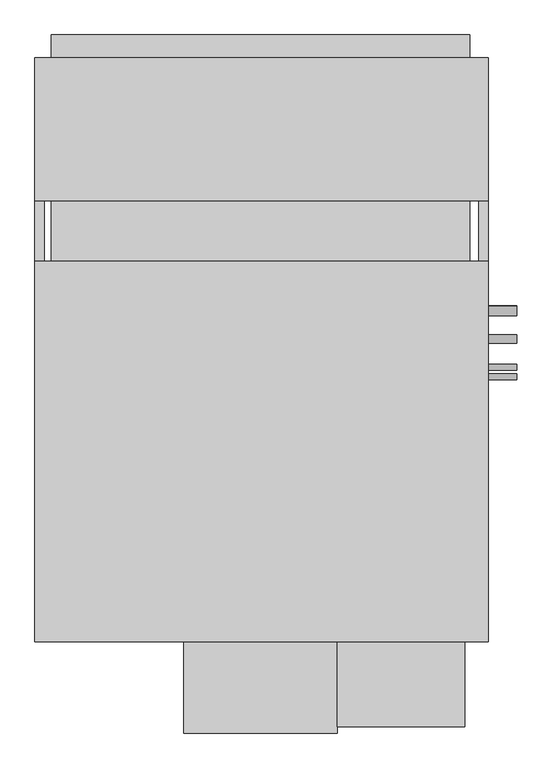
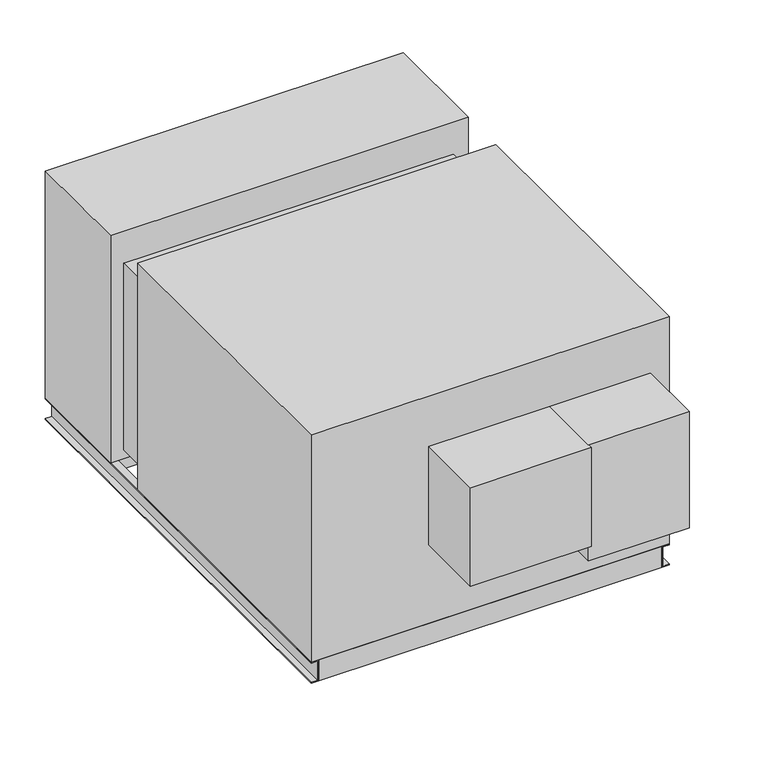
"""IFC4 building model written with IfcOpenShell, lengths in millimetres: proxy geometry, Horizontal_Direct_Drive_Blower_Coil_Unit_-_42DHA_-_CARRIER_-_4-Pipe_NFilterR_W-MixingBox_RH_2022 : Size 30 - 460v/60Hz/3Ph - 6/2 Coil."""

from ifc_helpers import new_model, si_unit, point, frame, frame_2d, origin, place, context, project, spatial, polyline, circle_curve, trimmed, segment, composite_curve, outline, extrude, source, transform, mapped, element, save


def mechanical_equipment_2b0987d8(model_context):
    return source(origin(), model_context, "Body", "SweptSolid", [
        extrude(outline(polyline([(101.6, 937.895), (101.6, 683.895), (-1022.35, 683.895), (-1022.35, 937.895), (101.6, 937.895)])), frame((0.0, 0.0, -880.11), z_axis=(0.0, 0.0, 1.0), x_axis=(1.0, 0.0, 0.0)), (0.0, 0.0, 1.0), 60.96),
        extrude(outline(polyline([(-1022.35, 1100.455), (101.6, 1100.455), (101.6, 1039.495), (-1022.35, 1039.495), (-1022.35, 1100.455)])), frame((0.0, 0.0, -330.2), z_axis=(0.0, 0.0, 1.0), x_axis=(1.0, 0.0, 0.0)), (0.0, 0.0, 1.0), 254.0),
        extrude(outline(polyline([(152.4, 1039.495), (152.4, 654.05), (-1066.8, 654.05), (-1066.8, 1039.495), (152.4, 1039.495)])), frame((0.0, 0.0, -819.15), z_axis=(0.0, 0.0, 1.0), x_axis=(1.0, 0.0, 0.0)), (0.0, 0.0, 1.0), 819.15),
        extrude(outline(polyline([(127.0, -504.825), (127.0, -530.225), (-1041.4, -530.225), (-1041.4, -504.825), (127.0, -504.825)])), frame((0.0, 0.0, -895.35), z_axis=(0.0, 0.0, 1.0), x_axis=(1.0, 0.0, 0.0)), (0.0, 0.0, 1.0), 76.2),
        extrude(outline(polyline([(127.0, 1039.495), (127.0, 1014.095), (-1041.4, 1014.095), (-1041.4, 1039.495), (127.0, 1039.495)])), frame((0.0, 0.0, -895.35), z_axis=(0.0, 0.0, 1.0), x_axis=(1.0, 0.0, 0.0)), (0.0, 0.0, 1.0), 76.2),
        extrude(outline(polyline([(-819.15, -1041.4), (-819.15, -1066.8), (-822.325, -1066.8), (-822.325, -1044.575), (-892.175, -1044.575), (-892.175, -1066.8), (-895.35, -1066.8), (-895.35, -1041.4), (-819.15, -1041.4)])), frame((0.0, -530.225, 0.0), z_axis=(0.0, 1.0, 0.0), x_axis=(0.0, 0.0, 1.0)), (0.0, 0.0, 1.0), 1569.72),
        extrude(outline(polyline([(-819.15, 127.0), (-895.35, 127.0), (-895.35, 152.4), (-892.175, 152.4), (-892.175, 130.175), (-822.325, 130.175), (-822.325, 152.4), (-819.15, 152.4), (-819.15, 127.0)])), frame((0.0, -530.225, 0.0), z_axis=(0.0, 1.0, 0.0), x_axis=(0.0, 0.0, 1.0)), (0.0, 0.0, 1.0), 1569.72),
        extrude(outline(composite_curve([segment(trimmed(circle_curve(frame_2d((358.775, -177.8)), 12.7), [point((371.475, -177.8))], [point((346.075, -177.8))], False, "CARTESIAN"), True, "CONTINUOUS"), segment(trimmed(circle_curve(frame_2d((358.775, -177.8)), 12.7), [point((346.075, -177.8))], [point((371.475, -177.8))], False, "CARTESIAN"), True, "CONTINUOUS")], self_intersect=False)), frame((152.4, 0.0, 0.0), z_axis=(1.0, 0.0, 0.0), x_axis=(0.0, 1.0, 0.0)), (0.0, 0.0, 1.0), 76.2),
        extrude(outline(composite_curve([segment(trimmed(circle_curve(frame_2d((359.642288, -692.15)), 12.7), [point((372.342288, -692.15))], [point((346.942288, -692.15))], False, "CARTESIAN"), True, "CONTINUOUS"), segment(trimmed(circle_curve(frame_2d((359.642288, -692.15)), 12.7), [point((346.942288, -692.15))], [point((372.342288, -692.15))], False, "CARTESIAN"), True, "CONTINUOUS")], self_intersect=False)), frame((152.4, 0.0, 0.0), z_axis=(1.0, 0.0, 0.0), x_axis=(0.0, 1.0, 0.0)), (0.0, 0.0, 1.0), 76.2),
        extrude(outline(composite_curve([segment(trimmed(circle_curve(frame_2d((283.442288, -774.7)), 11.1125), [point((294.554788, -774.7))], [point((272.329788, -774.7))], False, "CARTESIAN"), True, "CONTINUOUS"), segment(trimmed(circle_curve(frame_2d((283.442288, -774.7)), 11.1125), [point((272.329788, -774.7))], [point((294.554788, -774.7))], False, "CARTESIAN"), True, "CONTINUOUS")], self_intersect=False)), frame((152.4, 0.0, 0.0), z_axis=(1.0, 0.0, 0.0), x_axis=(0.0, 1.0, 0.0)), (0.0, 0.0, 1.0), 76.2),
        extrude(outline(composite_curve([segment(trimmed(circle_curve(frame_2d((207.242288, -228.6)), 7.9375), [point((215.179788, -228.6))], [point((199.304788, -228.6))], False, "CARTESIAN"), True, "CONTINUOUS"), segment(trimmed(circle_curve(frame_2d((207.242288, -228.6)), 7.9375), [point((199.304788, -228.6))], [point((215.179788, -228.6))], False, "CARTESIAN"), True, "CONTINUOUS")], self_intersect=False)), frame((152.4, 0.0, 0.0), z_axis=(1.0, 0.0, 0.0), x_axis=(0.0, 1.0, 0.0)), (0.0, 0.0, 1.0), 76.2),
        extrude(outline(composite_curve([segment(trimmed(circle_curve(frame_2d((181.842288, -641.6292556)), 7.9375), [point((189.779788, -641.6292556))], [point((173.904788, -641.6292556))], False, "CARTESIAN"), True, "CONTINUOUS"), segment(trimmed(circle_curve(frame_2d((181.842288, -641.6292556)), 7.9375), [point((173.904788, -641.6292556))], [point((189.779788, -641.6292556))], False, "CARTESIAN"), True, "CONTINUOUS")], self_intersect=False)), frame((152.4, 0.0, 0.0), z_axis=(1.0, 0.0, 0.0), x_axis=(0.0, 1.0, 0.0)), (0.0, 0.0, 1.0), 76.2),
        extrude(outline(polyline([(152.4, 492.125), (152.4, -530.225), (-1066.8, -530.225), (-1066.8, 492.125), (152.4, 492.125)])), frame((0.0, 0.0, -819.15), z_axis=(0.0, 0.0, 1.0), x_axis=(1.0, 0.0, 0.0)), (0.0, 0.0, 1.0), 819.15),
        extrude(outline(polyline([(88.9, -758.825), (-254.0, -758.825), (-254.0, -530.225), (88.9, -530.225), (88.9, -758.825)])), frame((0.0, 0.0, -600.075), z_axis=(0.0, 0.0, 1.0), x_axis=(1.0, 0.0, 0.0)), (0.0, 0.0, 1.0), 419.1),
        extrude(outline(polyline([(-1022.35, 654.05), (101.6, 654.05), (101.6, 492.125), (-1022.35, 492.125), (-1022.35, 654.05)])), frame((0.0, 0.0, -787.4), z_axis=(0.0, 0.0, 1.0), x_axis=(1.0, 0.0, 0.0)), (0.0, 0.0, 1.0), 673.1),
        extrude(outline(polyline([(-254.0, -776.2875), (-666.75, -776.2875), (-666.75, -530.225), (-254.0, -530.225), (-254.0, -776.2875)])), frame((0.0, 0.0, -536.575), z_axis=(0.0, 0.0, 1.0), x_axis=(1.0, 0.0, 0.0)), (0.0, 0.0, 1.0), 355.6),
    ])


if __name__ == "__main__":
    model = new_model("IFC4")
    model_context = context("Model", 3, world=origin())
    ifc_project = project(units=[si_unit("LENGTHUNIT", "METRE", prefix="MILLI")], contexts=[model_context])
    site = spatial("IfcSite", under=ifc_project)
    building = spatial("IfcBuilding", under=site)
    placement = place(None, origin())
    mechanical_equipment_shape = mechanical_equipment_2b0987d8(model_context)
    element("IfcBuildingElementProxy", 1, Name="Horizontal_Direct_Drive_Blower_Coil_Unit_-_42DHA_-_CARRIER_-_4-Pipe_NFilterR_W-MixingBox_RH_2022 : Size 30 - 460v/60Hz/3Ph - 6/2 Coil", ObjectType="Horizontal_Direct_Drive_Blower_Coil_Unit_-_42DHA_-_CARRIER_-_4-Pipe_NFilterR_W-MixingBox_RH_2022 : Size 30 - 460v/60Hz/3Ph - 6/2 Coil", at=placement, inside=building, context=model_context, shape_type="MappedRepresentation", body=[
        mapped(mechanical_equipment_shape, transform((0.0, 0.0, 0.0), x_axis=(1.0, 0.0, 0.0), y_axis=(0.0, 1.0, 0.0), z_axis=(0.0, 0.0, 1.0))),
    ])
    save(model, "model.ifc")
